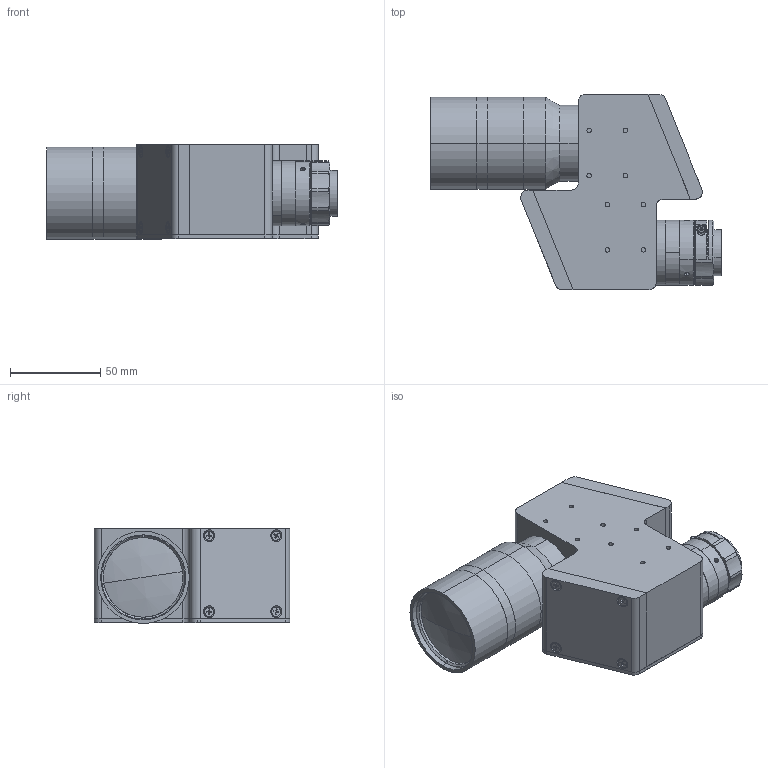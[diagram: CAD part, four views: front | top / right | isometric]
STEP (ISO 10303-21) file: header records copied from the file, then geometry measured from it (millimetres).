
FILE_DESCRIPTION (( 'STEP AP203' ), '1' );
FILE_NAME ('XF-MH045X625.STEP', '2020-08-24T07:18:14', ( 'canrill-02' ), ( '' ), 'SwSTEP 2.0', 'SolidWorks 2014', '' );
FILE_SCHEMA (( 'CONFIG_CONTROL_DESIGN' ));
Length unit declared in the file: millimetre
Products named in the file (1): XF-MH045X625
Bounding box: 160.58 x 108 x 52.5 mm (x, y, z)
Surface area: 66734.8 mm2 (no closed solid volume)
Topology: 0 solids, 31 shells, 402 faces, 1307 edges, 915 vertices
Faces by surface type: plane 200, cylinder 155, cone 43, sphere 2, torus 2
Entity records: 14740 total; most frequent: CARTESIAN_POINT 2958, DIRECTION 2567, ORIENTED_EDGE 2130, EDGE_CURVE 1307, VERTEX_POINT 915, AXIS2_PLACEMENT_3D 884, VECTOR 799, LINE 799
